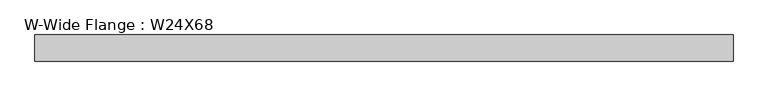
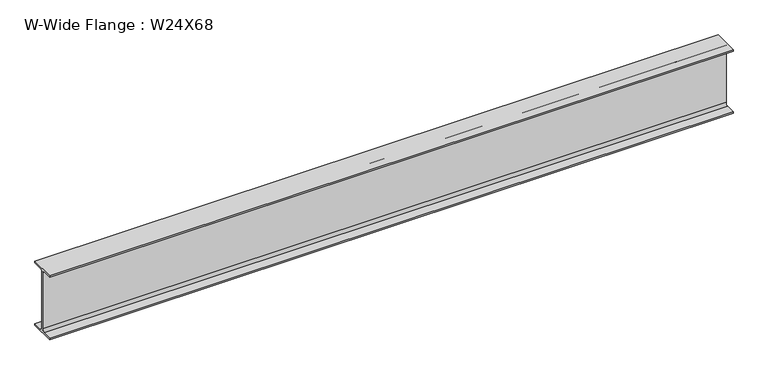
"""IFC4 building model written with IfcOpenShell, lengths in millimetres: beam geometry, W-Wide Flange : W24X68."""

from ifc_helpers import new_model, si_unit, point, frame, frame_2d, origin, place, context, project, spatial, polyline, circle_curve, trimmed, segment, composite_curve, outline, extrude, source, transform, mapped, element, save


def w_wide_flange_w24x68_fb0ecac3(model_context):
    return source(origin(), model_context, "Body", "SweptSolid", [
        extrude(outline(composite_curve([segment(polyline([(-113.919, -286.131), (-28.5115, -286.131)]), True, "CONTINUOUS"), segment(trimmed(circle_curve(frame_2d((-28.5115, -262.89)), 23.241), [point((-28.5115, -286.131))], [point((-5.2705, -262.89))], True, "CARTESIAN"), True, "CONTINUOUS"), segment(polyline([(-5.2705, -262.89), (-5.2705, 262.89)]), True, "CONTINUOUS"), segment(trimmed(circle_curve(frame_2d((-28.5115, 262.89)), 23.241), [point((-5.2705, 262.89))], [point((-28.5115, 286.131))], True, "CARTESIAN"), True, "CONTINUOUS"), segment(polyline([(-28.5115, 286.131), (-113.919, 286.131), (-113.919, 300.99), (113.919, 300.99), (113.919, 286.131), (28.5115, 286.131)]), True, "CONTINUOUS"), segment(trimmed(circle_curve(frame_2d((28.5115, 262.89)), 23.241), [point((28.5115, 286.131))], [point((5.2705, 262.89))], True, "CARTESIAN"), True, "CONTINUOUS"), segment(polyline([(5.2705, 262.89), (5.2705, -262.89)]), True, "CONTINUOUS"), segment(trimmed(circle_curve(frame_2d((28.5115, -262.89)), 23.241), [point((5.2705, -262.89))], [point((28.5115, -286.131))], True, "CARTESIAN"), True, "CONTINUOUS"), segment(polyline([(28.5115, -286.131), (113.919, -286.131), (113.919, -300.99), (-113.919, -300.99), (-113.919, -286.131)]), True, "CONTINUOUS")], self_intersect=False)), frame((-3074.2955674, 0.0, 0.0), z_axis=(1.0, 0.0, 0.0), x_axis=(0.0, 1.0, 0.0)), (0.0, 0.0, 1.0), 6093.0286348),
    ])


if __name__ == "__main__":
    model = new_model("IFC4")
    model_context = context("Model", 3, world=origin())
    ifc_project = project(units=[si_unit("LENGTHUNIT", "METRE", prefix="MILLI")], contexts=[model_context])
    site = spatial("IfcSite", under=ifc_project)
    building = spatial("IfcBuilding", under=site)
    placement = place(None, origin())
    w_wide_flange_w24x68_shape = w_wide_flange_w24x68_fb0ecac3(model_context)
    element("IfcBeam", 1, ObjectType="W-Wide Flange : W24X68", at=placement, inside=building, context=model_context, shape_type="MappedRepresentation", body=[
        mapped(w_wide_flange_w24x68_shape, transform((0.0, 0.0, 0.0), x_axis=(1.0, 0.0, 0.0), y_axis=(0.0, 1.0, 0.0), z_axis=(0.0, 0.0, 1.0))),
    ])
    save(model, "model.ifc")
